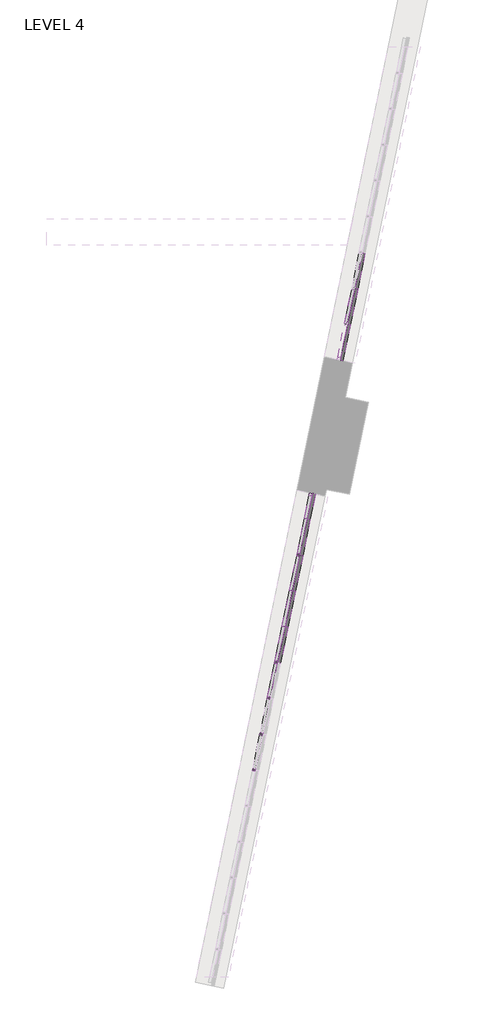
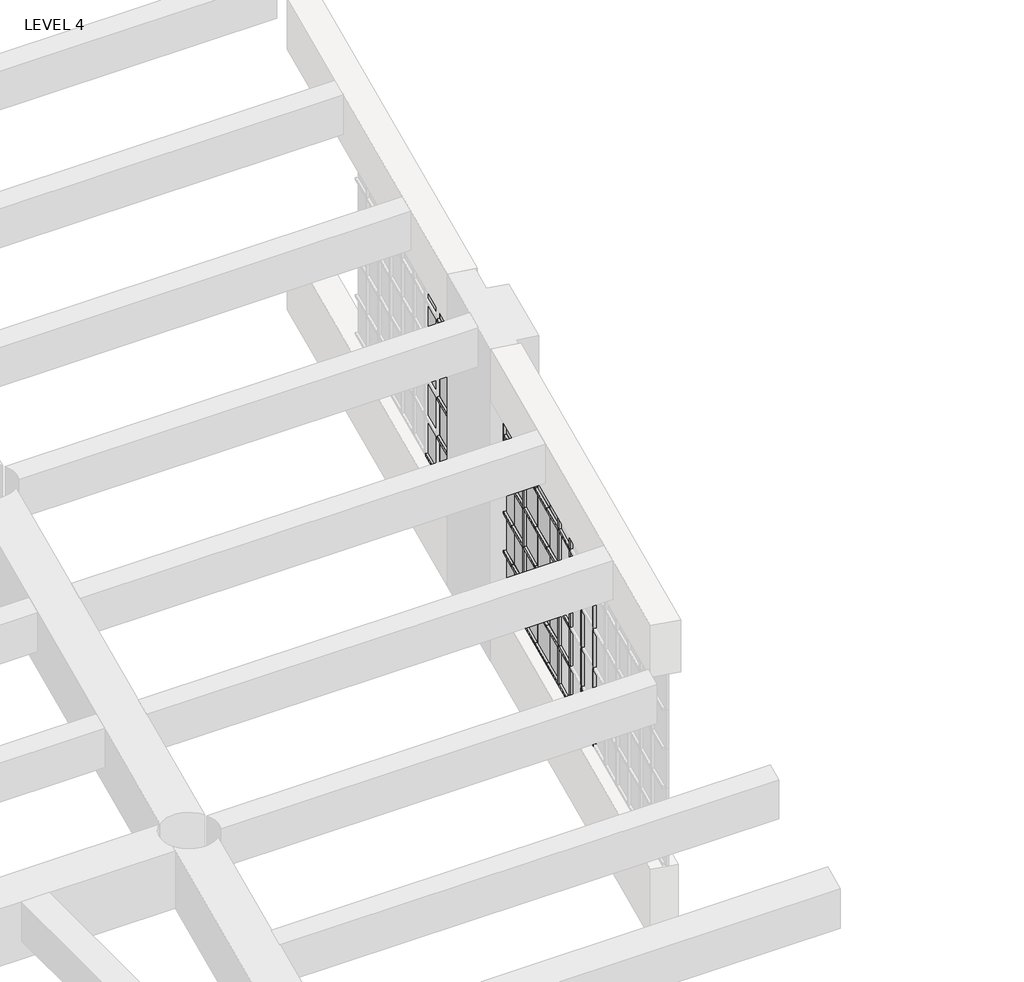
# One storey, part 19 of 26: 76 members, 40 plates.
"""IFC4 building model written with IfcOpenShell, lengths in millimetres."""

from ifc_helpers import new_model, si_unit, origin, place, context, project, spatial, transform, mapped, element, save
from components import member_0e6c94ff, member_3d4b608b, member_3c10d71f, member_653bb31e, member_9ec6e97d, member_6e26db71, member_643a3807, member_ec43e15b, member_6c57b699, member_0f6da5c5, member_ff98d70f, member_4e7b30ca, member_41439c15, member_5dd0e0a2, member_27bd086b, member_62f8fa83, member_43d97b6d, system_panel_glazed_ab35d819, system_panel_glazed_9007666c, system_panel_glazed_418eb6cd, system_panel_glazed_3fb58467, system_panel_glazed_24e80516

model = new_model("IFC4")

# Units and contexts
model_context = context("Model", 3, world=origin())
ifc_project = project(units=[si_unit("LENGTHUNIT", "METRE", prefix="MILLI")], contexts=[model_context])

# Site, building, storey
site = spatial("IfcSite", under=ifc_project)
building = spatial("IfcBuilding", under=site)
storey = spatial("IfcBuildingStorey", under=building, Name="LEVEL 4", Elevation=0.0)

# Members
placement = place(None, origin())
member_shape = member_0e6c94ff(model_context)
element("IfcMember", 1, ObjectType="Circular Mullion : 1 1/4\" Square", at=placement, inside=storey, context=model_context, shape_type="MappedRepresentation", body=[
    mapped(member_shape, transform((20318.5513773, 100058.247995, 3060.7), x_axis=(-0.20222128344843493, -0.979339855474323, 0.0), y_axis=(0.979339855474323, -0.20222128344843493, 0.0), z_axis=(0.0, 0.0, 1.0))),
])
member_2_shape = member_3d4b608b(model_context)
element("IfcMember", 2, ObjectType="Circular Mullion : 1 1/4\" Square", at=placement, inside=storey, context=model_context, shape_type="MappedRepresentation", body=[
    mapped(member_2_shape, transform((19496.7657854, 96078.2022113, 2171.7), x_axis=(0.20222128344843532, 0.9793398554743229, 0.0), y_axis=(0.9793398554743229, -0.20222128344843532, 0.0), z_axis=(0.0, 0.0, -1.0))),
])
element("IfcMember", 3, ObjectType="Circular Mullion : 1 1/4\" Square", at=placement, inside=storey, context=model_context, shape_type="MappedRepresentation", body=[
    mapped(member_2_shape, transform((19496.7657854, 96078.2022113, 1714.5), x_axis=(0.20222128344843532, 0.9793398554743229, 0.0), y_axis=(0.9793398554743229, -0.20222128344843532, 0.0), z_axis=(0.0, 0.0, -1.0))),
])
element("IfcMember", 4, ObjectType="Circular Mullion : 1 1/4\" Square", at=placement, inside=storey, context=model_context, shape_type="MappedRepresentation", body=[
    mapped(member_2_shape, transform((19496.7657854, 96078.2022113, 1257.3), x_axis=(0.20222128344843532, 0.9793398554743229, 0.0), y_axis=(0.9793398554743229, -0.20222128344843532, 0.0), z_axis=(0.0, 0.0, -1.0))),
])
element("IfcMember", 5, ObjectType="Circular Mullion : 1 1/4\" Square", at=placement, inside=storey, context=model_context, shape_type="MappedRepresentation", body=[
    mapped(member_2_shape, transform((19568.6756738, 96426.4554639, 2171.7), x_axis=(0.20222128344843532, 0.9793398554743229, 0.0), y_axis=(0.9793398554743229, -0.20222128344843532, 0.0), z_axis=(0.0, 0.0, -1.0))),
])
element("IfcMember", 6, ObjectType="Circular Mullion : 1 1/4\" Square", at=placement, inside=storey, context=model_context, shape_type="MappedRepresentation", body=[
    mapped(member_2_shape, transform((19568.6756738, 96426.4554639, 1714.5), x_axis=(0.20222128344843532, 0.9793398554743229, 0.0), y_axis=(0.9793398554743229, -0.20222128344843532, 0.0), z_axis=(0.0, 0.0, -1.0))),
])
element("IfcMember", 7, ObjectType="Circular Mullion : 1 1/4\" Square", at=placement, inside=storey, context=model_context, shape_type="MappedRepresentation", body=[
    mapped(member_2_shape, transform((19568.6756738, 96426.4554639, 1257.3), x_axis=(0.20222128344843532, 0.9793398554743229, 0.0), y_axis=(0.9793398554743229, -0.20222128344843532, 0.0), z_axis=(0.0, 0.0, -1.0))),
])
element("IfcMember", 8, ObjectType="Circular Mullion : 1 1/4\" Square", at=placement, inside=storey, context=model_context, shape_type="MappedRepresentation", body=[
    mapped(member_2_shape, transform((19640.5855622, 96774.7087165, 2171.7), x_axis=(0.20222128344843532, 0.9793398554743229, 0.0), y_axis=(0.9793398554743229, -0.20222128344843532, 0.0), z_axis=(0.0, 0.0, -1.0))),
])
element("IfcMember", 9, ObjectType="Circular Mullion : 1 1/4\" Square", at=placement, inside=storey, context=model_context, shape_type="MappedRepresentation", body=[
    mapped(member_2_shape, transform((19640.5855622, 96774.7087165, 1714.5), x_axis=(0.20222128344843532, 0.9793398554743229, 0.0), y_axis=(0.9793398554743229, -0.20222128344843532, 0.0), z_axis=(0.0, 0.0, -1.0))),
])
element("IfcMember", 10, ObjectType="Circular Mullion : 1 1/4\" Square", at=placement, inside=storey, context=model_context, shape_type="MappedRepresentation", body=[
    mapped(member_2_shape, transform((19640.5855622, 96774.7087165, 1257.3), x_axis=(0.20222128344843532, 0.9793398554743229, 0.0), y_axis=(0.9793398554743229, -0.20222128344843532, 0.0), z_axis=(0.0, 0.0, -1.0))),
])
element("IfcMember", 11, ObjectType="Circular Mullion : 1 1/4\" Square", at=placement, inside=storey, context=model_context, shape_type="MappedRepresentation", body=[
    mapped(member_2_shape, transform((19712.4954506, 97122.9619691, 2171.7), x_axis=(0.20222128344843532, 0.9793398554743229, 0.0), y_axis=(0.9793398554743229, -0.20222128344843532, 0.0), z_axis=(0.0, 0.0, -1.0))),
])
element("IfcMember", 12, ObjectType="Circular Mullion : 1 1/4\" Square", at=placement, inside=storey, context=model_context, shape_type="MappedRepresentation", body=[
    mapped(member_2_shape, transform((19712.4954506, 97122.9619691, 1714.5), x_axis=(0.20222128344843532, 0.9793398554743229, 0.0), y_axis=(0.9793398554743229, -0.20222128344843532, 0.0), z_axis=(0.0, 0.0, -1.0))),
])
element("IfcMember", 13, ObjectType="Circular Mullion : 1 1/4\" Square", at=placement, inside=storey, context=model_context, shape_type="MappedRepresentation", body=[
    mapped(member_2_shape, transform((19712.4954506, 97122.9619691, 1257.3), x_axis=(0.20222128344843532, 0.9793398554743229, 0.0), y_axis=(0.9793398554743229, -0.20222128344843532, 0.0), z_axis=(0.0, 0.0, -1.0))),
])
element("IfcMember", 14, ObjectType="Circular Mullion : 1 1/4\" Square", at=placement, inside=storey, context=model_context, shape_type="MappedRepresentation", body=[
    mapped(member_2_shape, transform((19928.2251158, 98167.721727, 2171.7), x_axis=(0.20222128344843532, 0.9793398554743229, 0.0), y_axis=(0.9793398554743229, -0.20222128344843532, 0.0), z_axis=(0.0, 0.0, -1.0))),
])
element("IfcMember", 15, ObjectType="Circular Mullion : 1 1/4\" Square", at=placement, inside=storey, context=model_context, shape_type="MappedRepresentation", body=[
    mapped(member_2_shape, transform((19928.2251158, 98167.721727, 1714.5), x_axis=(0.20222128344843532, 0.9793398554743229, 0.0), y_axis=(0.9793398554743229, -0.20222128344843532, 0.0), z_axis=(0.0, 0.0, -1.0))),
])
element("IfcMember", 16, ObjectType="Circular Mullion : 1 1/4\" Square", at=placement, inside=storey, context=model_context, shape_type="MappedRepresentation", body=[
    mapped(member_2_shape, transform((19928.2251158, 98167.721727, 1257.3), x_axis=(0.20222128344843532, 0.9793398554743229, 0.0), y_axis=(0.9793398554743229, -0.20222128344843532, 0.0), z_axis=(0.0, 0.0, -1.0))),
])
element("IfcMember", 17, ObjectType="Circular Mullion : 1 1/4\" Square", at=placement, inside=storey, context=model_context, shape_type="MappedRepresentation", body=[
    mapped(member_2_shape, transform((19496.7657854, 96078.2022113, 800.1), x_axis=(0.20222128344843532, 0.9793398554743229, 0.0), y_axis=(0.9793398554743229, -0.20222128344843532, 0.0), z_axis=(0.0, 0.0, -1.0))),
])
element("IfcMember", 18, ObjectType="Circular Mullion : 1 1/4\" Square", at=placement, inside=storey, context=model_context, shape_type="MappedRepresentation", body=[
    mapped(member_2_shape, transform((19568.6756738, 96426.4554639, 800.1), x_axis=(0.20222128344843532, 0.9793398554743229, 0.0), y_axis=(0.9793398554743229, -0.20222128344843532, 0.0), z_axis=(0.0, 0.0, -1.0))),
])
element("IfcMember", 19, ObjectType="Circular Mullion : 1 1/4\" Square", at=placement, inside=storey, context=model_context, shape_type="MappedRepresentation", body=[
    mapped(member_2_shape, transform((19640.5855622, 96774.7087165, 800.1), x_axis=(0.20222128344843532, 0.9793398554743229, 0.0), y_axis=(0.9793398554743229, -0.20222128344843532, 0.0), z_axis=(0.0, 0.0, -1.0))),
])
element("IfcMember", 20, ObjectType="Circular Mullion : 1 1/4\" Square", at=placement, inside=storey, context=model_context, shape_type="MappedRepresentation", body=[
    mapped(member_2_shape, transform((19712.4954506, 97122.9619691, 800.1), x_axis=(0.20222128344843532, 0.9793398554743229, 0.0), y_axis=(0.9793398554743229, -0.20222128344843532, 0.0), z_axis=(0.0, 0.0, -1.0))),
])
element("IfcMember", 21, ObjectType="Circular Mullion : 1 1/4\" Square", at=placement, inside=storey, context=model_context, shape_type="MappedRepresentation", body=[
    mapped(member_2_shape, transform((19928.2251158, 98167.721727, 800.1), x_axis=(0.20222128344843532, 0.9793398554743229, 0.0), y_axis=(0.9793398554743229, -0.20222128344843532, 0.0), z_axis=(0.0, 0.0, -1.0))),
])
member_3_shape = member_3c10d71f(model_context)
element("IfcMember", 22, ObjectType="Circular Mullion : 1 1/4\" Square", at=placement, inside=storey, context=model_context, shape_type="MappedRepresentation", body=[
    mapped(member_3_shape, transform((19709.9272403, 97110.524353, 3048.0), x_axis=(0.0, 0.0, 1.0), y_axis=(0.9793398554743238, -0.20222128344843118, 0.0), z_axis=(0.20222128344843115, 0.9793398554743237, 0.0))),
])
element("IfcMember", 23, ObjectType="Circular Mullion : 1 1/4\" Square", at=placement, inside=storey, context=model_context, shape_type="MappedRepresentation", body=[
    mapped(member_3_shape, transform((20459.8029439, 100742.3168844, 3060.7), x_axis=(0.0, 0.0, 1.0), y_axis=(0.9793398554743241, -0.20222128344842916, 0.0), z_axis=(0.20222128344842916, 0.9793398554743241, 0.0))),
])
element("IfcMember", 24, ObjectType="Circular Mullion : 1 1/4\" Square", at=placement, inside=storey, context=model_context, shape_type="MappedRepresentation", body=[
    mapped(member_3_shape, transform((20464.9393645, 100767.1921167, 800.1), x_axis=(0.0, 0.0, -1.0), y_axis=(0.9793398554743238, -0.20222128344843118, 0.0), z_axis=(-0.20222128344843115, -0.9793398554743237, 0.0))),
])
element("IfcMember", 25, ObjectType="Circular Mullion : 1 1/4\" Square", at=placement, inside=storey, context=model_context, shape_type="MappedRepresentation", body=[
    mapped(member_3_shape, transform((19499.3339957, 96090.6398275, 800.1), x_axis=(0.0, 0.0, -1.0), y_axis=(0.9793398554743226, -0.202221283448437, 0.0), z_axis=(-0.202221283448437, -0.9793398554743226, 0.0))),
])
element("IfcMember", 26, ObjectType="Circular Mullion : 1 1/4\" Square", at=placement, inside=storey, context=model_context, shape_type="MappedRepresentation", body=[
    mapped(member_3_shape, transform((19571.2438841, 96438.8930801, 800.1), x_axis=(0.0, 0.0, -1.0), y_axis=(0.9793398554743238, -0.20222128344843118, 0.0), z_axis=(-0.20222128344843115, -0.9793398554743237, 0.0))),
])
element("IfcMember", 27, ObjectType="Circular Mullion : 1 1/4\" Square", at=placement, inside=storey, context=model_context, shape_type="MappedRepresentation", body=[
    mapped(member_3_shape, transform((19643.1537725, 96787.1463327, 800.1), x_axis=(0.0, 0.0, -1.0), y_axis=(0.9793398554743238, -0.20222128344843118, 0.0), z_axis=(-0.20222128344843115, -0.9793398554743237, 0.0))),
])
member_4_shape = member_653bb31e(model_context)
element("IfcMember", 28, ObjectType="Circular Mullion : 1 1/4\" Square", at=placement, inside=storey, context=model_context, shape_type="MappedRepresentation", body=[
    mapped(member_4_shape, transform((19709.9272403, 97110.524353, 2171.7), x_axis=(0.0, 0.0, 1.0), y_axis=(0.9793398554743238, -0.20222128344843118, 0.0), z_axis=(0.20222128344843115, 0.9793398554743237, 0.0))),
])
element("IfcMember", 29, ObjectType="Circular Mullion : 1 1/4\" Square", at=placement, inside=storey, context=model_context, shape_type="MappedRepresentation", body=[
    mapped(member_4_shape, transform((19709.9272403, 97110.524353, 1714.5), x_axis=(0.0, 0.0, 1.0), y_axis=(0.9793398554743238, -0.20222128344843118, 0.0), z_axis=(0.20222128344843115, 0.9793398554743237, 0.0))),
])
element("IfcMember", 30, ObjectType="Circular Mullion : 1 1/4\" Square", at=placement, inside=storey, context=model_context, shape_type="MappedRepresentation", body=[
    mapped(member_4_shape, transform((19709.9272403, 97110.524353, 1257.3), x_axis=(0.0, 0.0, 1.0), y_axis=(0.9793398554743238, -0.20222128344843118, 0.0), z_axis=(0.20222128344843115, 0.9793398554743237, 0.0))),
])
element("IfcMember", 31, ObjectType="Circular Mullion : 1 1/4\" Square", at=placement, inside=storey, context=model_context, shape_type="MappedRepresentation", body=[
    mapped(member_4_shape, transform((19709.9272403, 97110.524353, 2628.9), x_axis=(0.0, 0.0, 1.0), y_axis=(0.9793398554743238, -0.20222128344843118, 0.0), z_axis=(0.20222128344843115, 0.9793398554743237, 0.0))),
])
element("IfcMember", 32, ObjectType="Circular Mullion : 1 1/4\" Square", at=placement, inside=storey, context=model_context, shape_type="MappedRepresentation", body=[
    mapped(member_4_shape, transform((20459.8029439, 100742.3168844, 2628.9), x_axis=(0.0, 0.0, 1.0), y_axis=(0.9793398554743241, -0.20222128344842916, 0.0), z_axis=(0.20222128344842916, 0.9793398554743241, 0.0))),
])
element("IfcMember", 33, ObjectType="Circular Mullion : 1 1/4\" Square", at=placement, inside=storey, context=model_context, shape_type="MappedRepresentation", body=[
    mapped(member_4_shape, transform((20459.8029439, 100742.3168844, 2171.7), x_axis=(0.0, 0.0, 1.0), y_axis=(0.9793398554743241, -0.20222128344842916, 0.0), z_axis=(0.20222128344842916, 0.9793398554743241, 0.0))),
])
member_5_shape = member_9ec6e97d(model_context)
element("IfcMember", 34, ObjectType="Circular Mullion : 1 1/4\" Square", at=placement, inside=storey, context=model_context, shape_type="MappedRepresentation", body=[
    mapped(member_5_shape, transform((20387.8930555, 100394.0636318, 3060.7), x_axis=(0.0, 0.0, 1.0), y_axis=(0.979339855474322, -0.20222128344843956, 0.0), z_axis=(0.20222128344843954, 0.9793398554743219, 0.0))),
])
member_6_shape = member_6e26db71(model_context)
element("IfcMember", 35, ObjectType="Circular Mullion : 1 1/4\" Square", at=placement, inside=storey, context=model_context, shape_type="MappedRepresentation", body=[
    mapped(member_6_shape, transform((20387.8930555, 100394.0636318, 2628.9), x_axis=(0.0, 0.0, 1.0), y_axis=(0.979339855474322, -0.20222128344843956, 0.0), z_axis=(0.20222128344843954, 0.9793398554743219, 0.0))),
])
element("IfcMember", 36, ObjectType="Circular Mullion : 1 1/4\" Square", at=placement, inside=storey, context=model_context, shape_type="MappedRepresentation", body=[
    mapped(member_6_shape, transform((20387.8930555, 100394.0636318, 2171.7), x_axis=(0.0, 0.0, 1.0), y_axis=(0.979339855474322, -0.20222128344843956, 0.0), z_axis=(0.20222128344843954, 0.9793398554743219, 0.0))),
])
member_7_shape = member_643a3807(model_context)
element("IfcMember", 37, ObjectType="Circular Mullion : 1 1/4\" Square", at=placement, inside=storey, context=model_context, shape_type="MappedRepresentation", body=[
    mapped(member_7_shape, transform((19856.3152274, 97819.4684744, 2171.7), x_axis=(0.0, 0.0, 1.0), y_axis=(0.9793398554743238, -0.20222128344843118, 0.0), z_axis=(0.20222128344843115, 0.9793398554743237, 0.0))),
])
element("IfcMember", 38, ObjectType="Circular Mullion : 1 1/4\" Square", at=placement, inside=storey, context=model_context, shape_type="MappedRepresentation", body=[
    mapped(member_7_shape, transform((19856.3152274, 97819.4684744, 1714.5), x_axis=(0.0, 0.0, 1.0), y_axis=(0.9793398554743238, -0.20222128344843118, 0.0), z_axis=(0.20222128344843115, 0.9793398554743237, 0.0))),
])
element("IfcMember", 39, ObjectType="Circular Mullion : 1 1/4\" Square", at=placement, inside=storey, context=model_context, shape_type="MappedRepresentation", body=[
    mapped(member_7_shape, transform((19856.3152274, 97819.4684744, 1257.3), x_axis=(0.0, 0.0, 1.0), y_axis=(0.9793398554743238, -0.20222128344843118, 0.0), z_axis=(0.20222128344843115, 0.9793398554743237, 0.0))),
])
element("IfcMember", 40, ObjectType="Circular Mullion : 1 1/4\" Square", at=placement, inside=storey, context=model_context, shape_type="MappedRepresentation", body=[
    mapped(member_7_shape, transform((19856.3152274, 97819.4684744, 2628.9), x_axis=(0.0, 0.0, 1.0), y_axis=(0.9793398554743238, -0.20222128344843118, 0.0), z_axis=(0.20222128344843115, 0.9793398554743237, 0.0))),
])
member_8_shape = member_ec43e15b(model_context)
element("IfcMember", 41, ObjectType="Circular Mullion : 1 1/4\" Square", at=placement, inside=storey, context=model_context, shape_type="MappedRepresentation", body=[
    mapped(member_8_shape, transform((19856.3152274, 97819.4684744, 3048.0), x_axis=(0.0, 0.0, 1.0), y_axis=(0.9793398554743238, -0.20222128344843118, 0.0), z_axis=(0.20222128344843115, 0.9793398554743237, 0.0))),
])
member_9_shape = member_6c57b699(model_context)
element("IfcMember", 42, ObjectType="Circular Mullion : 1 1/4\" Square", at=placement, inside=storey, context=model_context, shape_type="MappedRepresentation", body=[
    mapped(member_9_shape, transform((19784.405339, 97471.2152218, 2171.7), x_axis=(0.0, 0.0, 1.0), y_axis=(0.9793398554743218, -0.20222128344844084, 0.0), z_axis=(0.20222128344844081, 0.9793398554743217, 0.0))),
])
element("IfcMember", 43, ObjectType="Circular Mullion : 1 1/4\" Square", at=placement, inside=storey, context=model_context, shape_type="MappedRepresentation", body=[
    mapped(member_9_shape, transform((20000.1350042, 98515.9749796, 2171.7), x_axis=(0.0, 0.0, 1.0), y_axis=(0.9793398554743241, -0.20222128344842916, 0.0), z_axis=(0.20222128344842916, 0.9793398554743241, 0.0))),
])
element("IfcMember", 44, ObjectType="Circular Mullion : 1 1/4\" Square", at=placement, inside=storey, context=model_context, shape_type="MappedRepresentation", body=[
    mapped(member_9_shape, transform((19784.405339, 97471.2152218, 1714.5), x_axis=(0.0, 0.0, 1.0), y_axis=(0.9793398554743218, -0.20222128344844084, 0.0), z_axis=(0.20222128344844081, 0.9793398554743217, 0.0))),
])
element("IfcMember", 45, ObjectType="Circular Mullion : 1 1/4\" Square", at=placement, inside=storey, context=model_context, shape_type="MappedRepresentation", body=[
    mapped(member_9_shape, transform((20000.1350042, 98515.9749796, 1714.5), x_axis=(0.0, 0.0, 1.0), y_axis=(0.9793398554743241, -0.20222128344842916, 0.0), z_axis=(0.20222128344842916, 0.9793398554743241, 0.0))),
])
element("IfcMember", 46, ObjectType="Circular Mullion : 1 1/4\" Square", at=placement, inside=storey, context=model_context, shape_type="MappedRepresentation", body=[
    mapped(member_9_shape, transform((19784.405339, 97471.2152218, 1257.3), x_axis=(0.0, 0.0, 1.0), y_axis=(0.9793398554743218, -0.20222128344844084, 0.0), z_axis=(0.20222128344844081, 0.9793398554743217, 0.0))),
])
element("IfcMember", 47, ObjectType="Circular Mullion : 1 1/4\" Square", at=placement, inside=storey, context=model_context, shape_type="MappedRepresentation", body=[
    mapped(member_9_shape, transform((20000.1350042, 98515.9749796, 1257.3), x_axis=(0.0, 0.0, 1.0), y_axis=(0.9793398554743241, -0.20222128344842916, 0.0), z_axis=(0.20222128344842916, 0.9793398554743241, 0.0))),
])
element("IfcMember", 48, ObjectType="Circular Mullion : 1 1/4\" Square", at=placement, inside=storey, context=model_context, shape_type="MappedRepresentation", body=[
    mapped(member_9_shape, transform((19784.405339, 97471.2152218, 2628.9), x_axis=(0.0, 0.0, 1.0), y_axis=(0.9793398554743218, -0.20222128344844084, 0.0), z_axis=(0.20222128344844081, 0.9793398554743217, 0.0))),
])
element("IfcMember", 49, ObjectType="Circular Mullion : 1 1/4\" Square", at=placement, inside=storey, context=model_context, shape_type="MappedRepresentation", body=[
    mapped(member_9_shape, transform((20000.1350042, 98515.9749796, 2628.9), x_axis=(0.0, 0.0, 1.0), y_axis=(0.9793398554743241, -0.20222128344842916, 0.0), z_axis=(0.20222128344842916, 0.9793398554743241, 0.0))),
])
member_10_shape = member_0f6da5c5(model_context)
element("IfcMember", 50, ObjectType="Circular Mullion : 1 1/4\" Square", at=placement, inside=storey, context=model_context, shape_type="MappedRepresentation", body=[
    mapped(member_10_shape, transform((19784.405339, 97471.2152218, 3048.0), x_axis=(0.0, 0.0, 1.0), y_axis=(0.9793398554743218, -0.20222128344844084, 0.0), z_axis=(0.20222128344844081, 0.9793398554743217, 0.0))),
])
element("IfcMember", 51, ObjectType="Circular Mullion : 1 1/4\" Square", at=placement, inside=storey, context=model_context, shape_type="MappedRepresentation", body=[
    mapped(member_10_shape, transform((20000.1350042, 98515.9749796, 3048.0), x_axis=(0.0, 0.0, 1.0), y_axis=(0.9793398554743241, -0.20222128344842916, 0.0), z_axis=(0.20222128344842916, 0.9793398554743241, 0.0))),
])
member_11_shape = member_ff98d70f(model_context)
element("IfcMember", 52, ObjectType="Circular Mullion : 1 1/4\" Square", at=placement, inside=storey, context=model_context, shape_type="MappedRepresentation", body=[
    mapped(member_11_shape, transform((19568.6756738, 96426.4554639, 2628.9), x_axis=(0.20222128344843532, 0.9793398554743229, 0.0), y_axis=(0.9793398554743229, -0.20222128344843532, 0.0), z_axis=(0.0, 0.0, -1.0))),
])
element("IfcMember", 53, ObjectType="Circular Mullion : 1 1/4\" Square", at=placement, inside=storey, context=model_context, shape_type="MappedRepresentation", body=[
    mapped(member_11_shape, transform((19640.5855622, 96774.7087165, 2628.9), x_axis=(0.20222128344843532, 0.9793398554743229, 0.0), y_axis=(0.9793398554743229, -0.20222128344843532, 0.0), z_axis=(0.0, 0.0, -1.0))),
])
element("IfcMember", 54, ObjectType="Circular Mullion : 1 1/4\" Square", at=placement, inside=storey, context=model_context, shape_type="MappedRepresentation", body=[
    mapped(member_11_shape, transform((19712.4954506, 97122.9619691, 2628.9), x_axis=(0.20222128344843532, 0.9793398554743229, 0.0), y_axis=(0.9793398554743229, -0.20222128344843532, 0.0), z_axis=(0.0, 0.0, -1.0))),
])
element("IfcMember", 55, ObjectType="Circular Mullion : 1 1/4\" Square", at=placement, inside=storey, context=model_context, shape_type="MappedRepresentation", body=[
    mapped(member_11_shape, transform((19928.2251158, 98167.721727, 2628.9), x_axis=(0.20222128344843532, 0.9793398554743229, 0.0), y_axis=(0.9793398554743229, -0.20222128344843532, 0.0), z_axis=(0.0, 0.0, -1.0))),
])
element("IfcMember", 56, ObjectType="Circular Mullion : 1 1/4\" Square", at=placement, inside=storey, context=model_context, shape_type="MappedRepresentation", body=[
    mapped(member_8_shape, transform((19784.405339, 97471.2152218, 800.1), x_axis=(0.0, 0.0, -1.0), y_axis=(0.9793398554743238, -0.20222128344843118, 0.0), z_axis=(-0.20222128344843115, -0.9793398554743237, 0.0))),
])
element("IfcMember", 57, ObjectType="Circular Mullion : 1 1/4\" Square", at=placement, inside=storey, context=model_context, shape_type="MappedRepresentation", body=[
    mapped(member_10_shape, transform((19856.3152274, 97819.4684744, 800.1), x_axis=(0.0, 0.0, -1.0), y_axis=(0.9793398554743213, -0.20222128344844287, 0.0), z_axis=(-0.20222128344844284, -0.9793398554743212, 0.0))),
])
member_12_shape = member_4e7b30ca(model_context)
element("IfcMember", 58, ObjectType="Circular Mullion : 1 1/4\" Square", at=placement, inside=storey, context=model_context, shape_type="MappedRepresentation", body=[
    mapped(member_12_shape, transform((20046.3627895, 98739.8520702, 3048.0), x_axis=(0.0, 0.0, 1.0), y_axis=(0.9793398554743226, -0.20222128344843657, 0.0), z_axis=(0.20222128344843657, 0.9793398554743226, 0.0))),
])
member_13_shape = member_41439c15(model_context)
element("IfcMember", 59, ObjectType="Circular Mullion : 1 1/4\" Square", at=placement, inside=storey, context=model_context, shape_type="MappedRepresentation", body=[
    mapped(member_13_shape, transform((20046.3627895, 98739.8520702, 2171.7), x_axis=(0.0, 0.0, 1.0), y_axis=(0.9793398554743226, -0.20222128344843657, 0.0), z_axis=(0.20222128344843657, 0.9793398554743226, 0.0))),
])
element("IfcMember", 60, ObjectType="Circular Mullion : 1 1/4\" Square", at=placement, inside=storey, context=model_context, shape_type="MappedRepresentation", body=[
    mapped(member_13_shape, transform((20046.3627895, 98739.8520702, 2628.9), x_axis=(0.0, 0.0, 1.0), y_axis=(0.9793398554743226, -0.20222128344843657, 0.0), z_axis=(0.20222128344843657, 0.9793398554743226, 0.0))),
])
element("IfcMember", 61, ObjectType="Circular Mullion : 1 1/4\" Square", at=placement, inside=storey, context=model_context, shape_type="MappedRepresentation", body=[
    mapped(member_10_shape, transform((19925.6569055, 98155.2841108, 3048.0), x_axis=(0.0, 0.0, 1.0), y_axis=(0.9793398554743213, -0.20222128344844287, 0.0), z_axis=(0.20222128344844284, 0.9793398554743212, 0.0))),
])
element("IfcMember", 62, ObjectType="Circular Mullion : 1 1/4\" Square", at=placement, inside=storey, context=model_context, shape_type="MappedRepresentation", body=[
    mapped(member_10_shape, transform((19715.0636609, 97135.3995853, 800.1), x_axis=(0.0, 0.0, -1.0), y_axis=(0.9793398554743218, -0.20222128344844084, 0.0), z_axis=(-0.20222128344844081, -0.9793398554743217, 0.0))),
])
element("IfcMember", 63, ObjectType="Circular Mullion : 1 1/4\" Square", at=placement, inside=storey, context=model_context, shape_type="MappedRepresentation", body=[
    mapped(member_10_shape, transform((19930.7933261, 98180.1593431, 800.1), x_axis=(0.0, 0.0, -1.0), y_axis=(0.9793398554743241, -0.20222128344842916, 0.0), z_axis=(-0.20222128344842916, -0.9793398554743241, 0.0))),
])
element("IfcMember", 64, ObjectType="Circular Mullion : 1 1/4\" Square", at=placement, inside=storey, context=model_context, shape_type="MappedRepresentation", body=[
    mapped(member_9_shape, transform((19925.6569055, 98155.2841108, 2171.7), x_axis=(0.0, 0.0, 1.0), y_axis=(0.9793398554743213, -0.20222128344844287, 0.0), z_axis=(0.20222128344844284, 0.9793398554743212, 0.0))),
])
element("IfcMember", 65, ObjectType="Circular Mullion : 1 1/4\" Square", at=placement, inside=storey, context=model_context, shape_type="MappedRepresentation", body=[
    mapped(member_9_shape, transform((19925.6569055, 98155.2841108, 1714.5), x_axis=(0.0, 0.0, 1.0), y_axis=(0.9793398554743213, -0.20222128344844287, 0.0), z_axis=(0.20222128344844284, 0.9793398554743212, 0.0))),
])
element("IfcMember", 66, ObjectType="Circular Mullion : 1 1/4\" Square", at=placement, inside=storey, context=model_context, shape_type="MappedRepresentation", body=[
    mapped(member_9_shape, transform((19925.6569055, 98155.2841108, 1257.3), x_axis=(0.0, 0.0, 1.0), y_axis=(0.9793398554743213, -0.20222128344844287, 0.0), z_axis=(0.20222128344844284, 0.9793398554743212, 0.0))),
])
element("IfcMember", 67, ObjectType="Circular Mullion : 1 1/4\" Square", at=placement, inside=storey, context=model_context, shape_type="MappedRepresentation", body=[
    mapped(member_9_shape, transform((19925.6569055, 98155.2841108, 2628.9), x_axis=(0.0, 0.0, 1.0), y_axis=(0.9793398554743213, -0.20222128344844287, 0.0), z_axis=(0.20222128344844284, 0.9793398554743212, 0.0))),
])
member_14_shape = member_5dd0e0a2(model_context)
element("IfcMember", 68, ObjectType="Circular Mullion : 1 1/4\" Square", at=placement, inside=storey, context=model_context, shape_type="MappedRepresentation", body=[
    mapped(member_14_shape, transform((20051.4992101, 98764.7273026, 2628.9), x_axis=(0.20222128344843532, 0.9793398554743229, 0.0), y_axis=(0.9793398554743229, -0.20222128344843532, 0.0), z_axis=(0.0, 0.0, -1.0))),
])
element("IfcMember", 69, ObjectType="Circular Mullion : 1 1/4\" Square", at=placement, inside=storey, context=model_context, shape_type="MappedRepresentation", body=[
    mapped(member_10_shape, transform((20390.4612658, 100406.5012479, 800.1), x_axis=(0.0, 0.0, -1.0), y_axis=(0.9793398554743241, -0.20222128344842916, 0.0), z_axis=(-0.20222128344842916, -0.9793398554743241, 0.0))),
])
element("IfcMember", 70, ObjectType="Circular Mullion : 1 1/4\" Square", at=placement, inside=storey, context=model_context, shape_type="MappedRepresentation", body=[
    mapped(member_9_shape, transform((20459.8029439, 100742.3168844, 1714.5), x_axis=(0.0, 0.0, 1.0), y_axis=(0.9793398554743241, -0.20222128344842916, 0.0), z_axis=(0.20222128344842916, 0.9793398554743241, 0.0))),
])
element("IfcMember", 71, ObjectType="Circular Mullion : 1 1/4\" Square", at=placement, inside=storey, context=model_context, shape_type="MappedRepresentation", body=[
    mapped(member_9_shape, transform((20459.8029439, 100742.3168844, 1257.3), x_axis=(0.0, 0.0, 1.0), y_axis=(0.9793398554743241, -0.20222128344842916, 0.0), z_axis=(0.20222128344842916, 0.9793398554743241, 0.0))),
])
member_15_shape = member_27bd086b(model_context)
element("IfcMember", 72, ObjectType="Circular Mullion : 1 1/4\" Square", at=placement, inside=storey, context=model_context, shape_type="MappedRepresentation", body=[
    mapped(member_15_shape, transform((20051.4992101, 98764.7273026, 1714.5), x_axis=(0.0, 0.0, 1.0), y_axis=(0.9793398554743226, -0.20222128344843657, 0.0), z_axis=(0.20222128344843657, 0.9793398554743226, 0.0))),
])
element("IfcMember", 73, ObjectType="Circular Mullion : 1 1/4\" Square", at=placement, inside=storey, context=model_context, shape_type="MappedRepresentation", body=[
    mapped(member_15_shape, transform((20051.4992101, 98764.7273026, 1257.3), x_axis=(0.0, 0.0, 1.0), y_axis=(0.9793398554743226, -0.20222128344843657, 0.0), z_axis=(0.20222128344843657, 0.9793398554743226, 0.0))),
])
member_16_shape = member_62f8fa83(model_context)
element("IfcMember", 74, ObjectType="Circular Mullion : 1 1/4\" Square", at=placement, inside=storey, context=model_context, shape_type="MappedRepresentation", body=[
    mapped(member_16_shape, transform((20000.1350042, 98515.9749796, 800.1), x_axis=(0.0, 0.0, -1.0), y_axis=(0.9793398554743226, -0.20222128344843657, 0.0), z_axis=(-0.20222128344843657, -0.9793398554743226, 0.0))),
])
member_17_shape = member_43d97b6d(model_context)
element("IfcMember", 75, ObjectType="Circular Mullion : 1 1/4\" Square", at=placement, inside=storey, context=model_context, shape_type="MappedRepresentation", body=[
    mapped(member_17_shape, transform((20318.5513773, 100058.247995, 2628.9), x_axis=(-0.20222128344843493, -0.979339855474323, 0.0), y_axis=(0.979339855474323, -0.20222128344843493, 0.0), z_axis=(0.0, 0.0, 1.0))),
])
element("IfcMember", 76, ObjectType="Circular Mullion : 1 1/4\" Square", at=placement, inside=storey, context=model_context, shape_type="MappedRepresentation", body=[
    mapped(member_17_shape, transform((20051.4992101, 98764.7273026, 2159.0), x_axis=(0.20222128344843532, 0.9793398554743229, 0.0), y_axis=(0.9793398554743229, -0.20222128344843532, 0.0), z_axis=(0.0, 0.0, -1.0))),
])

# Plates
system_panel_glazed_shape = system_panel_glazed_ab35d819(model_context)
element("IfcPlate", 77, ObjectType="System Panel : Glazed", at=placement, inside=storey, context=model_context, shape_type="MappedRepresentation", body=[
    mapped(system_panel_glazed_shape, transform((20354.5063216, 100232.3746215, 800.1), x_axis=(0.20222128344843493, 0.979339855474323, 0.0), y_axis=(-0.979339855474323, 0.20222128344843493, 0.0), z_axis=(0.0, 0.0, 1.0))),
])
element("IfcPlate", 78, ObjectType="System Panel : Glazed", at=placement, inside=storey, context=model_context, shape_type="MappedRepresentation", body=[
    mapped(system_panel_glazed_shape, transform((19964.18006, 98341.8483533, 800.1), x_axis=(0.20222128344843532, 0.9793398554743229, 0.0), y_axis=(-0.9793398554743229, 0.20222128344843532, 0.0), z_axis=(0.0, 0.0, 1.0))),
])
element("IfcPlate", 79, ObjectType="System Panel : Glazed", at=placement, inside=storey, context=model_context, shape_type="MappedRepresentation", body=[
    mapped(system_panel_glazed_shape, transform((20354.5063216, 100232.3746215, 1257.3), x_axis=(0.20222128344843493, 0.979339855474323, 0.0), y_axis=(-0.979339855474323, 0.20222128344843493, 0.0), z_axis=(0.0, 0.0, 1.0))),
])
element("IfcPlate", 80, ObjectType="System Panel : Glazed", at=placement, inside=storey, context=model_context, shape_type="MappedRepresentation", body=[
    mapped(system_panel_glazed_shape, transform((20354.5063216, 100232.3746215, 1714.5), x_axis=(0.20222128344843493, 0.979339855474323, 0.0), y_axis=(-0.979339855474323, 0.20222128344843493, 0.0), z_axis=(0.0, 0.0, 1.0))),
])
element("IfcPlate", 81, ObjectType="System Panel : Glazed", at=placement, inside=storey, context=model_context, shape_type="MappedRepresentation", body=[
    mapped(system_panel_glazed_shape, transform((20354.5063216, 100232.3746215, 2171.7), x_axis=(0.20222128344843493, 0.979339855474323, 0.0), y_axis=(-0.979339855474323, 0.20222128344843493, 0.0), z_axis=(0.0, 0.0, 1.0))),
])
element("IfcPlate", 82, ObjectType="System Panel : Glazed", at=placement, inside=storey, context=model_context, shape_type="MappedRepresentation", body=[
    mapped(system_panel_glazed_shape, transform((19892.2701716, 97993.5951007, 800.1), x_axis=(0.20222128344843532, 0.9793398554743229, 0.0), y_axis=(-0.9793398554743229, 0.20222128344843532, 0.0), z_axis=(0.0, 0.0, 1.0))),
])
element("IfcPlate", 83, ObjectType="System Panel : Glazed", at=placement, inside=storey, context=model_context, shape_type="MappedRepresentation", body=[
    mapped(system_panel_glazed_shape, transform((19820.3602832, 97645.3418481, 800.1), x_axis=(0.20222128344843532, 0.9793398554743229, 0.0), y_axis=(-0.9793398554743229, 0.20222128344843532, 0.0), z_axis=(0.0, 0.0, 1.0))),
])
element("IfcPlate", 84, ObjectType="System Panel : Glazed", at=placement, inside=storey, context=model_context, shape_type="MappedRepresentation", body=[
    mapped(system_panel_glazed_shape, transform((19748.4503948, 97297.0885954, 800.1), x_axis=(0.20222128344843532, 0.9793398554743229, 0.0), y_axis=(-0.9793398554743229, 0.20222128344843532, 0.0), z_axis=(0.0, 0.0, 1.0))),
])
element("IfcPlate", 85, ObjectType="System Panel : Glazed", at=placement, inside=storey, context=model_context, shape_type="MappedRepresentation", body=[
    mapped(system_panel_glazed_shape, transform((19892.2701716, 97993.5951007, 1257.3), x_axis=(0.20222128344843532, 0.9793398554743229, 0.0), y_axis=(-0.9793398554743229, 0.20222128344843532, 0.0), z_axis=(0.0, 0.0, 1.0))),
])
element("IfcPlate", 86, ObjectType="System Panel : Glazed", at=placement, inside=storey, context=model_context, shape_type="MappedRepresentation", body=[
    mapped(system_panel_glazed_shape, transform((19820.3602832, 97645.3418481, 1257.3), x_axis=(0.20222128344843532, 0.9793398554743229, 0.0), y_axis=(-0.9793398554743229, 0.20222128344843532, 0.0), z_axis=(0.0, 0.0, 1.0))),
])
element("IfcPlate", 87, ObjectType="System Panel : Glazed", at=placement, inside=storey, context=model_context, shape_type="MappedRepresentation", body=[
    mapped(system_panel_glazed_shape, transform((19748.4503948, 97297.0885954, 1257.3), x_axis=(0.20222128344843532, 0.9793398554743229, 0.0), y_axis=(-0.9793398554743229, 0.20222128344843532, 0.0), z_axis=(0.0, 0.0, 1.0))),
])
element("IfcPlate", 88, ObjectType="System Panel : Glazed", at=placement, inside=storey, context=model_context, shape_type="MappedRepresentation", body=[
    mapped(system_panel_glazed_shape, transform((19964.18006, 98341.8483533, 1257.3), x_axis=(0.20222128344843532, 0.9793398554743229, 0.0), y_axis=(-0.9793398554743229, 0.20222128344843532, 0.0), z_axis=(0.0, 0.0, 1.0))),
])
element("IfcPlate", 89, ObjectType="System Panel : Glazed", at=placement, inside=storey, context=model_context, shape_type="MappedRepresentation", body=[
    mapped(system_panel_glazed_shape, transform((19892.2701716, 97993.5951007, 1714.5), x_axis=(0.20222128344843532, 0.9793398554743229, 0.0), y_axis=(-0.9793398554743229, 0.20222128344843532, 0.0), z_axis=(0.0, 0.0, 1.0))),
])
element("IfcPlate", 90, ObjectType="System Panel : Glazed", at=placement, inside=storey, context=model_context, shape_type="MappedRepresentation", body=[
    mapped(system_panel_glazed_shape, transform((19820.3602832, 97645.3418481, 1714.5), x_axis=(0.20222128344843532, 0.9793398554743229, 0.0), y_axis=(-0.9793398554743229, 0.20222128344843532, 0.0), z_axis=(0.0, 0.0, 1.0))),
])
element("IfcPlate", 91, ObjectType="System Panel : Glazed", at=placement, inside=storey, context=model_context, shape_type="MappedRepresentation", body=[
    mapped(system_panel_glazed_shape, transform((19748.4503948, 97297.0885954, 1714.5), x_axis=(0.20222128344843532, 0.9793398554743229, 0.0), y_axis=(-0.9793398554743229, 0.20222128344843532, 0.0), z_axis=(0.0, 0.0, 1.0))),
])
element("IfcPlate", 92, ObjectType="System Panel : Glazed", at=placement, inside=storey, context=model_context, shape_type="MappedRepresentation", body=[
    mapped(system_panel_glazed_shape, transform((19964.18006, 98341.8483533, 1714.5), x_axis=(0.20222128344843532, 0.9793398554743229, 0.0), y_axis=(-0.9793398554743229, 0.20222128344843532, 0.0), z_axis=(0.0, 0.0, 1.0))),
])
element("IfcPlate", 93, ObjectType="System Panel : Glazed", at=placement, inside=storey, context=model_context, shape_type="MappedRepresentation", body=[
    mapped(system_panel_glazed_shape, transform((19892.2701716, 97993.5951007, 2171.7), x_axis=(0.20222128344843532, 0.9793398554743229, 0.0), y_axis=(-0.9793398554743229, 0.20222128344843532, 0.0), z_axis=(0.0, 0.0, 1.0))),
])
element("IfcPlate", 94, ObjectType="System Panel : Glazed", at=placement, inside=storey, context=model_context, shape_type="MappedRepresentation", body=[
    mapped(system_panel_glazed_shape, transform((19820.3602832, 97645.3418481, 2171.7), x_axis=(0.20222128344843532, 0.9793398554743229, 0.0), y_axis=(-0.9793398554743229, 0.20222128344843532, 0.0), z_axis=(0.0, 0.0, 1.0))),
])
element("IfcPlate", 95, ObjectType="System Panel : Glazed", at=placement, inside=storey, context=model_context, shape_type="MappedRepresentation", body=[
    mapped(system_panel_glazed_shape, transform((19748.4503948, 97297.0885954, 2171.7), x_axis=(0.20222128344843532, 0.9793398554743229, 0.0), y_axis=(-0.9793398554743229, 0.20222128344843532, 0.0), z_axis=(0.0, 0.0, 1.0))),
])
element("IfcPlate", 96, ObjectType="System Panel : Glazed", at=placement, inside=storey, context=model_context, shape_type="MappedRepresentation", body=[
    mapped(system_panel_glazed_shape, transform((19964.18006, 98341.8483533, 2171.7), x_axis=(0.20222128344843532, 0.9793398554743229, 0.0), y_axis=(-0.9793398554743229, 0.20222128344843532, 0.0), z_axis=(0.0, 0.0, 1.0))),
])
element("IfcPlate", 97, ObjectType="System Panel : Glazed", at=placement, inside=storey, context=model_context, shape_type="MappedRepresentation", body=[
    mapped(system_panel_glazed_shape, transform((20498.3260984, 100928.8811268, 800.1), x_axis=(0.20222128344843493, 0.979339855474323, 0.0), y_axis=(-0.979339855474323, 0.20222128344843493, 0.0), z_axis=(0.0, 0.0, 1.0))),
])
element("IfcPlate", 98, ObjectType="System Panel : Glazed", at=placement, inside=storey, context=model_context, shape_type="MappedRepresentation", body=[
    mapped(system_panel_glazed_shape, transform((20498.3260984, 100928.8811268, 1257.3), x_axis=(0.20222128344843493, 0.979339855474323, 0.0), y_axis=(-0.979339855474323, 0.20222128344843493, 0.0), z_axis=(0.0, 0.0, 1.0))),
])
element("IfcPlate", 99, ObjectType="System Panel : Glazed", at=placement, inside=storey, context=model_context, shape_type="MappedRepresentation", body=[
    mapped(system_panel_glazed_shape, transform((20498.3260984, 100928.8811268, 1714.5), x_axis=(0.20222128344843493, 0.979339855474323, 0.0), y_axis=(-0.979339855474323, 0.20222128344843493, 0.0), z_axis=(0.0, 0.0, 1.0))),
])
element("IfcPlate", 100, ObjectType="System Panel : Glazed", at=placement, inside=storey, context=model_context, shape_type="MappedRepresentation", body=[
    mapped(system_panel_glazed_shape, transform((20498.3260984, 100928.8811268, 2171.7), x_axis=(0.20222128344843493, 0.979339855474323, 0.0), y_axis=(-0.979339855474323, 0.20222128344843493, 0.0), z_axis=(0.0, 0.0, 1.0))),
])
element("IfcPlate", 101, ObjectType="System Panel : Glazed", at=placement, inside=storey, context=model_context, shape_type="MappedRepresentation", body=[
    mapped(system_panel_glazed_shape, transform((20426.41621, 100580.6278742, 800.1), x_axis=(0.20222128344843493, 0.979339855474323, 0.0), y_axis=(-0.979339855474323, 0.20222128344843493, 0.0), z_axis=(0.0, 0.0, 1.0))),
])
element("IfcPlate", 102, ObjectType="System Panel : Glazed", at=placement, inside=storey, context=model_context, shape_type="MappedRepresentation", body=[
    mapped(system_panel_glazed_shape, transform((20426.41621, 100580.6278742, 1257.3), x_axis=(0.20222128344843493, 0.979339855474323, 0.0), y_axis=(-0.979339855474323, 0.20222128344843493, 0.0), z_axis=(0.0, 0.0, 1.0))),
])
element("IfcPlate", 103, ObjectType="System Panel : Glazed", at=placement, inside=storey, context=model_context, shape_type="MappedRepresentation", body=[
    mapped(system_panel_glazed_shape, transform((20426.41621, 100580.6278742, 1714.5), x_axis=(0.20222128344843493, 0.979339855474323, 0.0), y_axis=(-0.979339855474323, 0.20222128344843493, 0.0), z_axis=(0.0, 0.0, 1.0))),
])
element("IfcPlate", 104, ObjectType="System Panel : Glazed", at=placement, inside=storey, context=model_context, shape_type="MappedRepresentation", body=[
    mapped(system_panel_glazed_shape, transform((20426.41621, 100580.6278742, 2171.7), x_axis=(0.20222128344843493, 0.979339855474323, 0.0), y_axis=(-0.979339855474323, 0.20222128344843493, 0.0), z_axis=(0.0, 0.0, 1.0))),
])
system_panel_glazed_2_shape = system_panel_glazed_9007666c(model_context)
element("IfcPlate", 105, ObjectType="System Panel : Glazed", at=placement, inside=storey, context=model_context, shape_type="MappedRepresentation", body=[
    mapped(system_panel_glazed_2_shape, transform((20025.8171071, 98640.3511411, 800.1), x_axis=(0.20222128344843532, 0.9793398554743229, 0.0), y_axis=(-0.9793398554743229, 0.20222128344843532, 0.0), z_axis=(0.0, 0.0, 1.0))),
])
element("IfcPlate", 106, ObjectType="System Panel : Glazed", at=placement, inside=storey, context=model_context, shape_type="MappedRepresentation", body=[
    mapped(system_panel_glazed_2_shape, transform((20025.8171071, 98640.3511411, 1257.3), x_axis=(0.20222128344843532, 0.9793398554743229, 0.0), y_axis=(-0.9793398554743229, 0.20222128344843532, 0.0), z_axis=(0.0, 0.0, 1.0))),
])
element("IfcPlate", 107, ObjectType="System Panel : Glazed", at=placement, inside=storey, context=model_context, shape_type="MappedRepresentation", body=[
    mapped(system_panel_glazed_2_shape, transform((20025.8171071, 98640.3511411, 1714.5), x_axis=(0.20222128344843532, 0.9793398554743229, 0.0), y_axis=(-0.9793398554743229, 0.20222128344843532, 0.0), z_axis=(0.0, 0.0, 1.0))),
])
element("IfcPlate", 108, ObjectType="System Panel : Glazed", at=placement, inside=storey, context=model_context, shape_type="MappedRepresentation", body=[
    mapped(system_panel_glazed_2_shape, transform((20025.8171071, 98640.3511411, 2171.7), x_axis=(0.20222128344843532, 0.9793398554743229, 0.0), y_axis=(-0.9793398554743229, 0.20222128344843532, 0.0), z_axis=(0.0, 0.0, 1.0))),
])
system_panel_glazed_3_shape = system_panel_glazed_418eb6cd(model_context)
element("IfcPlate", 109, ObjectType="System Panel : Glazed", at=placement, inside=storey, context=model_context, shape_type="MappedRepresentation", body=[
    mapped(system_panel_glazed_3_shape, transform((20354.5063216, 100232.3746215, 2628.9), x_axis=(0.20222128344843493, 0.979339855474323, 0.0), y_axis=(-0.979339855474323, 0.20222128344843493, 0.0), z_axis=(0.0, 0.0, 1.0))),
])
element("IfcPlate", 110, ObjectType="System Panel : Glazed", at=placement, inside=storey, context=model_context, shape_type="MappedRepresentation", body=[
    mapped(system_panel_glazed_3_shape, transform((20498.3260984, 100928.8811268, 2628.9), x_axis=(0.20222128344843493, 0.979339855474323, 0.0), y_axis=(-0.979339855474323, 0.20222128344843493, 0.0), z_axis=(0.0, 0.0, 1.0))),
])
element("IfcPlate", 111, ObjectType="System Panel : Glazed", at=placement, inside=storey, context=model_context, shape_type="MappedRepresentation", body=[
    mapped(system_panel_glazed_3_shape, transform((20426.41621, 100580.6278742, 2628.9), x_axis=(0.20222128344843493, 0.979339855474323, 0.0), y_axis=(-0.979339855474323, 0.20222128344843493, 0.0), z_axis=(0.0, 0.0, 1.0))),
])
system_panel_glazed_4_shape = system_panel_glazed_3fb58467(model_context)
element("IfcPlate", 112, ObjectType="System Panel : Glazed", at=placement, inside=storey, context=model_context, shape_type="MappedRepresentation", body=[
    mapped(system_panel_glazed_4_shape, transform((19892.2701716, 97993.5951007, 2628.9), x_axis=(0.20222128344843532, 0.9793398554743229, 0.0), y_axis=(-0.9793398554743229, 0.20222128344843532, 0.0), z_axis=(0.0, 0.0, 1.0))),
])
element("IfcPlate", 113, ObjectType="System Panel : Glazed", at=placement, inside=storey, context=model_context, shape_type="MappedRepresentation", body=[
    mapped(system_panel_glazed_4_shape, transform((19820.3602832, 97645.3418481, 2628.9), x_axis=(0.20222128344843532, 0.9793398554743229, 0.0), y_axis=(-0.9793398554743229, 0.20222128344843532, 0.0), z_axis=(0.0, 0.0, 1.0))),
])
element("IfcPlate", 114, ObjectType="System Panel : Glazed", at=placement, inside=storey, context=model_context, shape_type="MappedRepresentation", body=[
    mapped(system_panel_glazed_4_shape, transform((19748.4503948, 97297.0885954, 2628.9), x_axis=(0.20222128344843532, 0.9793398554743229, 0.0), y_axis=(-0.9793398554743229, 0.20222128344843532, 0.0), z_axis=(0.0, 0.0, 1.0))),
])
element("IfcPlate", 115, ObjectType="System Panel : Glazed", at=placement, inside=storey, context=model_context, shape_type="MappedRepresentation", body=[
    mapped(system_panel_glazed_4_shape, transform((19964.18006, 98341.8483533, 2628.9), x_axis=(0.20222128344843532, 0.9793398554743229, 0.0), y_axis=(-0.9793398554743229, 0.20222128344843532, 0.0), z_axis=(0.0, 0.0, 1.0))),
])
system_panel_glazed_5_shape = system_panel_glazed_24e80516(model_context)
element("IfcPlate", 116, ObjectType="System Panel : Glazed", at=placement, inside=storey, context=model_context, shape_type="MappedRepresentation", body=[
    mapped(system_panel_glazed_5_shape, transform((20025.8171071, 98640.3511411, 2628.9), x_axis=(0.20222128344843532, 0.9793398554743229, 0.0), y_axis=(-0.9793398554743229, 0.20222128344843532, 0.0), z_axis=(0.0, 0.0, 1.0))),
])

save(model, "model.ifc")
